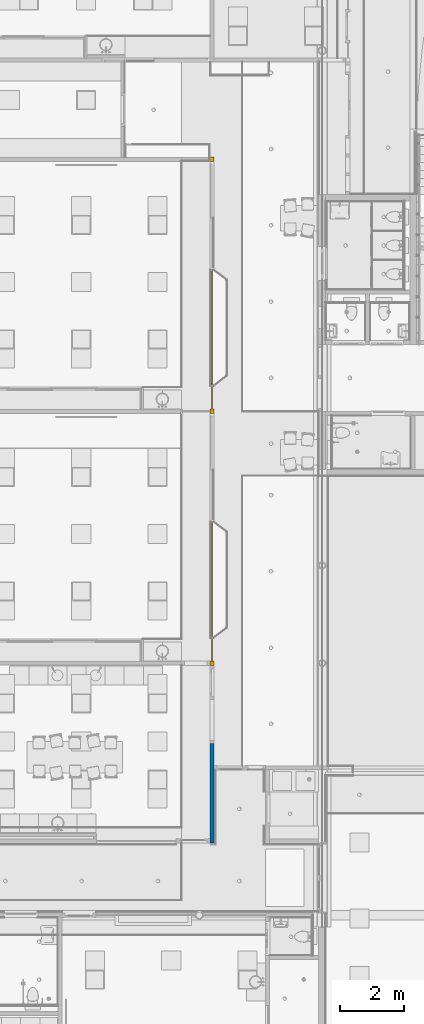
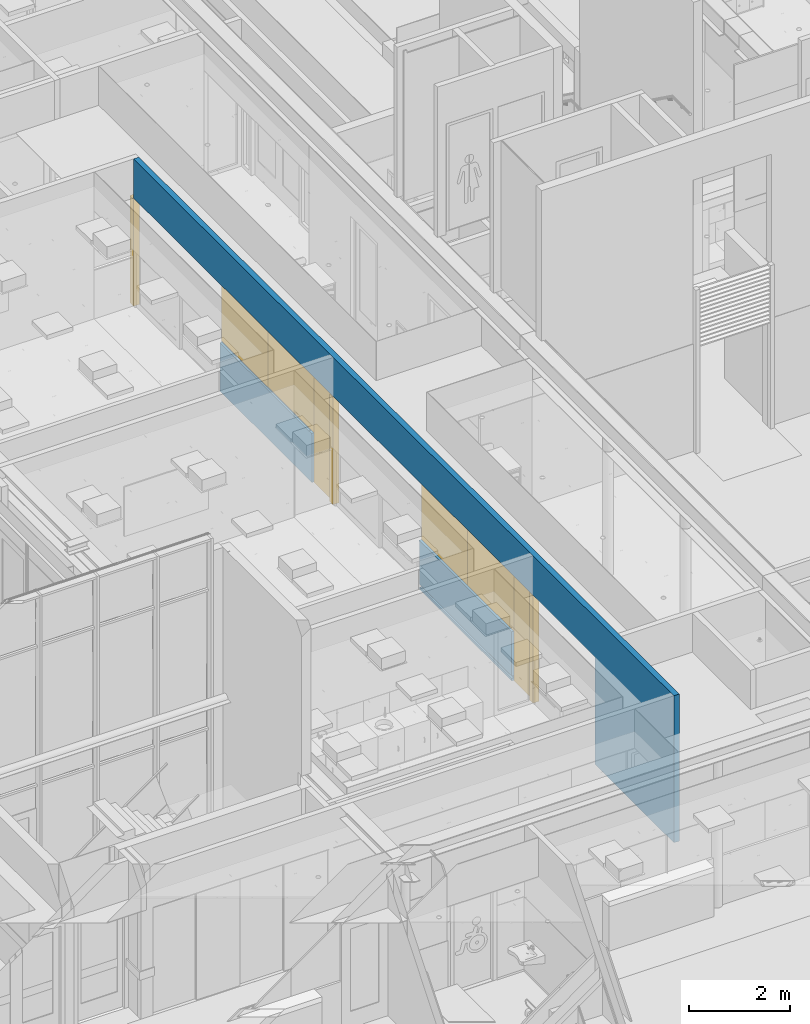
# One storey, part 46 of 347: 9 windows, 1 wall, 12 openings.
"""IFC2X3 building model written with IfcOpenShell, lengths in millimetres."""

from ifc_helpers import new_model, entity, si_unit, converted_unit, derived_unit, money_unit, direction, frame, origin_with_axes, place, context, subcontext, project, spatial, open_shell, faceted_brep, surface_model, source, transform, mapped, material, type_object, type_shapes, element, fill, save


model = new_model("IFC2X3")

# Units and contexts
model_context = context("Model", 3, precision=0.01, world=origin_with_axes(), true_north=direction((0.0, 1.0)))
plan_context = context("Plan", 3, precision=0.01, world=origin_with_axes(), true_north=direction((0.0, 1.0)))
body_context = subcontext(model_context, "Body", "Model", "MODEL_VIEW")
ifc_project = project(units=[si_unit("LENGTHUNIT", "METRE", prefix="MILLI"), si_unit("AREAUNIT", "SQUARE_METRE"), si_unit("VOLUMEUNIT", "CUBIC_METRE"), converted_unit("PLANEANGLEUNIT", "DEGREE", entity("IfcPlaneAngleMeasure", 0.0174532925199), si_unit("PLANEANGLEUNIT", "RADIAN"), dimensions=[0, 0, 0, 0, 0, 0, 0]), money_unit("EUR"), converted_unit("TIMEUNIT", "Year", entity("IfcTimeMeasure", 31556926.0), si_unit("TIMEUNIT", "SECOND"), dimensions=[0, 0, 1, 0, 0, 0, 0]), si_unit("MASSUNIT", "GRAM", prefix="KILO"), si_unit("THERMODYNAMICTEMPERATUREUNIT", "DEGREE_CELSIUS"), si_unit("LUMINOUSINTENSITYUNIT", "LUMEN"), si_unit("ENERGYUNIT", "JOULE", prefix="MEGA"), derived_unit("THERMALCONDUCTANCEUNIT", [(si_unit("POWERUNIT", "WATT"), 1), (si_unit("LENGTHUNIT", "METRE"), -1), (si_unit("THERMODYNAMICTEMPERATUREUNIT", "KELVIN"), -1)]), derived_unit("SPECIFICHEATCAPACITYUNIT", [(si_unit("ENERGYUNIT", "JOULE"), 1), (si_unit("MASSUNIT", "GRAM", prefix="KILO"), -1), (si_unit("THERMODYNAMICTEMPERATUREUNIT", "KELVIN"), -1)]), derived_unit("MASSDENSITYUNIT", [(si_unit("MASSUNIT", "GRAM", prefix="KILO"), 1), (si_unit("VOLUMEUNIT", "CUBIC_METRE"), -1)])], contexts=[model_context, plan_context])

# Site, building, storey
site_placement = place(None, origin_with_axes())
site = spatial("IfcSite", under=ifc_project, at=site_placement, Name="Site", CompositionType="ELEMENT")
building_placement = place(site_placement, origin_with_axes())
building = spatial("IfcBuilding", under=site, at=building_placement, Name="Naam gebouw", CompositionType="ELEMENT")
storey_placement = place(building_placement, origin_with_axes())
storey = spatial("IfcBuildingStorey", under=building, at=storey_placement, Name="begane grond", CompositionType="ELEMENT", Elevation=0.0)

# Wall, openings, windows
ifc_material_1 = material(Name="ALG - LICHTE SCHEIDINGSWAND")
wall_type = type_object("IfcWallType", Name="ALG LSW 125 125", PredefinedType="NOTDEFINED")
wall_placement = place(storey_placement, frame((32075.0, 14400.0, 0.0), z_axis=(0.0, 0.0, 1.0), x_axis=(0.0, 1.0, 0.0)))
wall = element("IfcWall", 1, at=wall_placement, inside=storey, type_object=wall_type, material=ifc_material_1, Name="22_GF 125 ECO DGS/2.75.2A", context=body_context, shape_type="Brep", body=[
    faceted_brep([(10105.5, -88.9482869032, 1178.0), (10077.7299648, -125.0, 1178.0), (10077.7299648, -125.0, 0.0), (10105.5, -88.9482869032, 0.0), (6443.5, -88.9506197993, 1178.0), (6471.27110157, -125.0, 1178.0), (10105.5, -72.5, 1178.0), (6465.77078348, -72.1991566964, 1178.0), (6465.95055533, -72.4815328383, 1178.0), (6465.5, -72.4815328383, 1178.0), (6465.5, -72.1991343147, 1178.0), (6443.5, -72.1973158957, 1178.0), (6471.27110157, -125.0, 0.0), (6455.5, -104.527695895, 0.0), (6455.5, -11.9999999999, 0.0), (10105.5, -11.9999999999, 0.0), (6465.5, -71.7738242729, 0.0), (6465.5, -72.4815328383, 0.0), (6465.95055533, -72.4815328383, 0.0), (10105.5, 0.0, 1175.0), (10105.5, 0.0, 1200.0), (10105.5, -72.5, 1200.0), (10105.5, -11.9999999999, 60.0), (10105.5, -52.5, 60.0), (10105.5, -52.5, 120.0), (10105.5, -11.9999999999, 120.0), (10105.5, -11.9999999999, 1175.0), (6443.5, -88.9506197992, 1175.0), (6455.5, -104.527695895, 1175.0), (6443.5, -72.1973158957, 1200.0), (6465.5, -71.7738242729, 1178.0), (6443.5, 0.0, 1200.0), (6443.5, 0.0, 1175.0), (6455.5, -11.9999999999, 1175.0), (6455.5, -11.9999999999, 120.0), (6455.5, -52.5, 120.0), (6455.5, -52.5, 60.0), (6455.5, -11.9999999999, 60.0)], [[[0, 1, 2, 3]], [[4, 5, 1, 0, 6, 7, 8, 9, 10, 11]], [[2, 1, 5, 12]], [[12, 13, 14, 15, 3, 2], [16, 17, 18]], [[19, 20, 21, 6, 0, 3, 15, 22, 23, 24, 25, 26]], [[27, 28, 13, 12, 5, 4]], [[11, 10, 7, 6, 21, 29]], [[30, 16, 18, 8, 7]], [[9, 8, 18, 17]], [[17, 16, 30, 10, 9]], [[4, 11, 29, 31, 32, 27]], [[33, 34, 35, 36, 37, 14, 13, 28]], [[15, 14, 37, 22]], [[19, 32, 31, 20]], [[20, 31, 29, 21]], [[22, 37, 36, 23]], [[23, 36, 35, 24]], [[24, 35, 34, 25]], [[25, 34, 33, 26]], [[28, 27, 32, 19, 26, 33]], [[7, 10, 30]]]),
    faceted_brep([(18002.7299648, -125.0, 0.0), (18030.5, -88.9482869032, 0.0), (18030.5, -88.9482869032, 1178.0), (18002.7299648, -125.0, 1178.0), (14396.2711016, -125.0, 0.0), (14380.5, -104.527695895, 0.0), (14380.5, -11.9999999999, 0.0), (18030.5, -11.9999999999, 0.0), (14390.9505553, -72.4815328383, 0.0), (14390.5, -71.773824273, 0.0), (14390.5, -72.4815328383, 0.0), (18030.5, -11.9999999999, 1175.0), (18030.5, -52.5, 1175.0), (18030.5, -52.5, 1200.0), (18030.5, -72.5, 1200.0), (18030.5, -72.5, 1178.0), (14368.5, -72.5, 1178.0), (14368.5, -88.9506197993, 1178.0), (14396.2711016, -125.0, 1178.0), (14368.5, -88.9506197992, 1175.0), (14380.5, -104.527695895, 1175.0), (14380.5, -11.9999999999, 1175.0), (14470.5, -11.9999999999, 1175.0), (14390.9505553, -72.4815328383, 1178.0), (14390.5, -71.773824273, 1178.0), (14390.5, -72.4815328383, 1178.0), (14470.5, -52.5, 1175.0), (14470.5, -52.5, 1200.0), (14470.5, 0.0, 1200.0), (14368.5, 0.0, 1200.0), (14368.5, -72.5, 1200.0), (14368.5, 0.0, 1175.0), (14470.5, 0.0, 1175.0)], [[[0, 1, 2, 3]], [[1, 0, 4, 5, 6, 7], [8, 9, 10]], [[7, 11, 12, 13, 14, 15, 2, 1]], [[15, 16, 17, 18, 3, 2]], [[3, 18, 4, 0]], [[5, 4, 18, 17, 19, 20]], [[6, 5, 20, 21]], [[11, 7, 6, 21, 22]], [[8, 23, 24, 9]], [[9, 24, 25, 10]], [[10, 25, 23, 8]], [[26, 12, 11, 22]], [[27, 13, 12, 26]], [[13, 27, 28, 29, 30, 14]], [[16, 15, 14, 30]], [[30, 29, 31, 19, 17, 16]], [[31, 32, 22, 21, 20, 19]], [[25, 24, 23]], [[22, 32, 28, 27, 26]], [[29, 28, 32, 31]]]),
    faceted_brep([(0.0, -125.0, 0.0), (3125.0, -125.0, 0.0), (3125.0, -125.0, 2600.0), (5712.5, -125.0, 2600.0), (5712.5, -125.0, 2612.0), (21437.5, -125.0, 2612.0), (21437.5, -125.0, 3560.0), (0.0, -125.0, 3560.0), (0.0, 0.0, 0.0), (3125.0, 0.0, 0.0), (3125.0, 0.0, 2600.0), (5712.5, 0.0, 2600.0), (5712.5, 0.0, 2612.0), (21437.5, 0.0, 2612.0), (21437.5, 0.0, 3560.0), (0.0, 0.0, 3560.0)], [[[0, 1, 2, 3, 4, 5, 6, 7]], [[8, 9, 1, 0]], [[10, 2, 1, 9]], [[3, 2, 10, 11]], [[3, 11, 12, 4]], [[12, 13, 5, 4]], [[6, 5, 13, 14]], [[7, 6, 14, 15]], [[8, 0, 7, 15]], [[11, 10, 9, 8, 15, 14, 13, 12]]]),
])
opening_1_placement = place(wall_placement, frame((21500.0, 0.0, 0.0), z_axis=(0.0, 0.0, 1.0), x_axis=(1.0, 0.0, 0.0)))
opening_1 = element("IfcOpeningElement", 2, at=opening_1_placement, cuts=wall, Name="32_-", context=body_context, shape_type="Brep", body=[
    faceted_brep([(-69.5, -132.0, 0.0), (-69.5, -132.0, 2600.0), (-69.5, 7.00000000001, 2600.0), (-69.5, 7.00000000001, 0.0), (69.5, -132.0, 0.0), (69.5, -132.0, 2600.0)], [[[0, 1, 2, 3]], [[1, 0, 4, 5]], [[1, 5, 2]], [[5, 4, 3, 2]], [[0, 3, 4]]]),
])
opening_2_placement = place(wall_placement, frame((17115.0, 0.0, 1200.0), z_axis=(0.0, 0.0, 1.0), x_axis=(1.0, 0.0, 0.0)))
opening_2 = element("IfcOpeningElement", 3, at=opening_2_placement, cuts=wall, Name="31_11.01", context=body_context, shape_type="Brep", body=[
    faceted_brep([(915.5, -72.5, 1400.0), (915.5, -72.5, 0.0), (915.5, 125.0, 0.0), (915.5, 125.0, 1400.0), (-915.5, -72.5, 1400.0), (-915.5, -72.5, 0.0), (-915.5, 125.0, 0.0), (-915.5, 125.0, 1400.0)], [[[0, 1, 2, 3]], [[0, 4, 5, 1]], [[1, 5, 6, 2]], [[3, 2, 6, 7]], [[4, 0, 3, 7]], [[5, 4, 7, 6]]]),
    faceted_brep([(915.5, -72.5, 0.0), (915.5, -72.5, 1400.0), (915.5, -250.0, 1400.0), (915.5, -250.0, 0.0), (-915.5, -72.5, 0.0), (-915.5, -72.5, 1400.0), (-915.5, -250.0, 1400.0), (-915.5, -250.0, 0.0)], [[[0, 1, 2, 3]], [[0, 4, 5, 1]], [[1, 5, 6, 2]], [[3, 2, 6, 7]], [[4, 0, 3, 7]], [[5, 4, 7, 6]]]),
])
opening_3_placement = place(wall_placement, frame((14006.5, 0.0, 0.0), z_axis=(0.0, 0.0, 1.0), x_axis=(1.0, 0.0, 0.0)))
opening_3 = element("IfcOpeningElement", 4, at=opening_3_placement, cuts=wall, Name="32_10.01", context=body_context, shape_type="Brep", body=[
    faceted_brep([(362.0, -72.5, 2600.0), (362.0, -72.5, 0.0), (362.0, 125.0, 0.0), (362.0, 125.0, 2600.0), (-362.0, -72.5, 2600.0), (-362.0, -72.5, 0.0), (-362.0, 125.0, 0.0), (-362.0, 125.0, 2600.0)], [[[0, 1, 2, 3]], [[0, 4, 5, 1]], [[1, 5, 6, 2]], [[3, 2, 6, 7]], [[4, 0, 3, 7]], [[5, 4, 7, 6]]]),
    faceted_brep([(362.0, -72.5, 0.0), (362.0, -72.5, 2600.0), (362.0, -250.0, 2600.0), (362.0, -250.0, 0.0), (-362.0, -72.5, 0.0), (-362.0, -72.5, 2600.0), (-362.0, -250.0, 2600.0), (-362.0, -250.0, 0.0)], [[[0, 1, 2, 3]], [[0, 4, 5, 1]], [[1, 5, 6, 2]], [[3, 2, 6, 7]], [[4, 0, 3, 7]], [[5, 4, 7, 6]]]),
])
opening_4_placement = place(wall_placement, frame((13575.0, 0.0, 0.0), z_axis=(0.0, 0.0, 1.0), x_axis=(1.0, 0.0, 0.0)))
opening_4 = element("IfcOpeningElement", 5, at=opening_4_placement, cuts=wall, Name="32_-", context=body_context, shape_type="Brep", body=[
    faceted_brep([(69.5, -132.0, 2600.0), (69.5, -132.0, 0.0), (69.5, 132.0, 0.0), (69.5, 132.0, 2600.0), (-69.5, -132.0, 2600.0), (-69.5, -132.0, 0.0), (-69.5, 132.0, 0.0), (-69.5, 132.0, 2600.0)], [[[0, 1, 2, 3]], [[0, 4, 5, 1]], [[1, 5, 6, 2]], [[3, 2, 6, 7]], [[4, 0, 3, 7]], [[5, 4, 7, 6]]]),
])
opening_5_placement = place(wall_placement, frame((6081.5, 0.0, 0.0), z_axis=(0.0, 0.0, 1.0), x_axis=(1.0, 0.0, 0.0)))
opening_5 = element("IfcOpeningElement", 6, at=opening_5_placement, cuts=wall, Name="32_10.01", context=body_context, shape_type="Brep", body=[
    faceted_brep([(362.0, -72.5, 2600.0), (362.0, -72.5, 0.0), (362.0, 125.0, 0.0), (362.0, 125.0, 2600.0), (-362.0, -72.5, 2600.0), (-362.0, -72.5, 0.0), (-362.0, 125.0, 0.0), (-362.0, 125.0, 2600.0)], [[[0, 1, 2, 3]], [[0, 4, 5, 1]], [[1, 5, 6, 2]], [[3, 2, 6, 7]], [[4, 0, 3, 7]], [[5, 4, 7, 6]]]),
    faceted_brep([(362.0, -72.5, 0.0), (362.0, -72.5, 2600.0), (362.0, -250.0, 2600.0), (362.0, -250.0, 0.0), (-362.0, -72.5, 0.0), (-362.0, -72.5, 2600.0), (-362.0, -250.0, 2600.0), (-362.0, -250.0, 0.0)], [[[0, 1, 2, 3]], [[0, 4, 5, 1]], [[1, 5, 6, 2]], [[3, 2, 6, 7]], [[4, 0, 3, 7]], [[5, 4, 7, 6]]]),
])
opening_6_placement = place(wall_placement, frame((9190.0, 0.0, 1200.0), z_axis=(0.0, 0.0, 1.0), x_axis=(1.0, 0.0, 0.0)))
opening_6 = element("IfcOpeningElement", 7, at=opening_6_placement, cuts=wall, Name="31_11.01", context=body_context, shape_type="Brep", body=[
    faceted_brep([(915.5, -72.5, 1400.0), (915.5, -72.5, 0.0), (915.5, 125.0, 0.0), (915.5, 125.0, 1400.0), (-915.5, -72.5, 1400.0), (-915.5, -72.5, 0.0), (-915.5, 125.0, 0.0), (-915.5, 125.0, 1400.0)], [[[0, 1, 2, 3]], [[0, 4, 5, 1]], [[1, 5, 6, 2]], [[3, 2, 6, 7]], [[4, 0, 3, 7]], [[5, 4, 7, 6]]]),
    faceted_brep([(915.5, -72.5, 0.0), (915.5, -72.5, 1400.0), (915.5, -250.0, 1400.0), (915.5, -250.0, 0.0), (-915.5, -72.5, 0.0), (-915.5, -72.5, 1400.0), (-915.5, -250.0, 1400.0), (-915.5, -250.0, 0.0)], [[[0, 1, 2, 3]], [[0, 4, 5, 1]], [[1, 5, 6, 2]], [[3, 2, 6, 7]], [[4, 0, 3, 7]], [[5, 4, 7, 6]]]),
])
opening_7_placement = place(wall_placement, frame((5650.0, 0.0, 0.0), z_axis=(0.0, 0.0, 1.0), x_axis=(1.0, 0.0, 0.0)))
opening_7 = element("IfcOpeningElement", 8, at=opening_7_placement, cuts=wall, Name="32_-", context=body_context, shape_type="Brep", body=[
    faceted_brep([(69.5, -132.0, 2600.0), (69.5, -132.0, 0.0), (69.5, 132.0, 0.0), (69.5, 132.0, 2600.0), (-69.5, -132.0, 2600.0), (-69.5, -132.0, 0.0), (-69.5, 132.0, 0.0), (-69.5, 132.0, 2600.0)], [[[0, 1, 2, 3]], [[0, 4, 5, 1]], [[1, 5, 6, 2]], [[3, 2, 6, 7]], [[4, 0, 3, 7]], [[5, 4, 7, 6]]]),
])
opening_8_placement = place(wall_placement, frame((15284.0, 0.0, 1200.0), z_axis=(0.0, 0.0, 1.0), x_axis=(1.0, 0.0, 0.0)))
opening_8 = element("IfcOpeningElement", 9, at=opening_8_placement, cuts=wall, Name="31_11.01", context=body_context, shape_type="Brep", body=[
    faceted_brep([(915.5, -72.5, 1400.0), (915.5, -72.5, 0.0), (915.5, 125.0, 0.0), (915.5, 125.0, 1400.0), (-915.5, -72.5, 1400.0), (-915.5, -72.5, 0.0), (-915.5, 125.0, 0.0), (-915.5, 125.0, 1400.0)], [[[0, 1, 2, 3]], [[0, 4, 5, 1]], [[1, 5, 6, 2]], [[3, 2, 6, 7]], [[4, 0, 3, 7]], [[5, 4, 7, 6]]]),
    faceted_brep([(915.5, -72.5, 0.0), (915.5, -72.5, 1400.0), (915.5, -250.0, 1400.0), (915.5, -250.0, 0.0), (-915.5, -72.5, 0.0), (-915.5, -72.5, 1400.0), (-915.5, -250.0, 1400.0), (-915.5, -250.0, 0.0)], [[[0, 1, 2, 3]], [[0, 4, 5, 1]], [[1, 5, 6, 2]], [[3, 2, 6, 7]], [[4, 0, 3, 7]], [[5, 4, 7, 6]]]),
])
opening_9_placement = place(wall_placement, frame((7359.0, 0.0, 1200.0), z_axis=(0.0, 0.0, 1.0), x_axis=(1.0, 0.0, 0.0)))
opening_9 = element("IfcOpeningElement", 10, at=opening_9_placement, cuts=wall, Name="31_11.01", context=body_context, shape_type="Brep", body=[
    faceted_brep([(915.5, -72.5, 1400.0), (915.5, -72.5, 0.0), (915.5, 125.0, 0.0), (915.5, 125.0, 1400.0), (-915.5, -72.5, 1400.0), (-915.5, -72.5, 0.0), (-915.5, 125.0, 0.0), (-915.5, 125.0, 1400.0)], [[[0, 1, 2, 3]], [[0, 4, 5, 1]], [[1, 5, 6, 2]], [[3, 2, 6, 7]], [[4, 0, 3, 7]], [[5, 4, 7, 6]]]),
    faceted_brep([(915.5, -72.5, 0.0), (915.5, -72.5, 1400.0), (915.5, -250.0, 1400.0), (915.5, -250.0, 0.0), (-915.5, -72.5, 0.0), (-915.5, -72.5, 1400.0), (-915.5, -250.0, 1400.0), (-915.5, -250.0, 0.0)], [[[0, 1, 2, 3]], [[0, 4, 5, 1]], [[1, 5, 6, 2]], [[3, 2, 6, 7]], [[4, 0, 3, 7]], [[5, 4, 7, 6]]]),
])
opening_10_placement = place(wall_placement, frame((19730.5, 0.0, 0.0), z_axis=(0.0, 0.0, 1.0), x_axis=(1.0, 0.0, 0.0)))
element("IfcOpeningElement", 11, at=opening_10_placement, cuts=wall, Name="32_06.01", context=body_context, shape_type="Brep", body=[
    faceted_brep([(1700.0, -132.0, 2599.99996583), (1700.0, -132.0, 0.0), (1700.0, 132.0, 0.0), (1700.0, 132.0, 2599.99996583), (-1700.0, -132.0, 2599.99996583), (-1700.0, -132.0, 0.0), (-1700.0, 132.0, 0.0), (-1700.0, 132.0, 2599.99996583)], [[[0, 1, 2, 3]], [[0, 4, 5, 1]], [[1, 5, 6, 2]], [[3, 2, 6, 7]], [[4, 0, 3, 7]], [[5, 4, 7, 6]]]),
])
opening_11_placement = place(wall_placement, frame((11805.5, 0.0, 0.0), z_axis=(0.0, 0.0, 1.0), x_axis=(1.0, 0.0, 0.0)))
element("IfcOpeningElement", 12, at=opening_11_placement, cuts=wall, Name="32_06.01", context=body_context, shape_type="Brep", body=[
    faceted_brep([(1700.0, -132.0, 2599.99996583), (1700.0, -132.0, 0.0), (1700.0, 132.0, 0.0), (1700.0, 132.0, 2599.99996583), (-1700.0, -132.0, 2599.99996583), (-1700.0, -132.0, 0.0), (-1700.0, 132.0, 0.0), (-1700.0, 132.0, 2599.99996583)], [[[0, 1, 2, 3]], [[0, 4, 5, 1]], [[1, 5, 6, 2]], [[3, 2, 6, 7]], [[4, 0, 3, 7]], [[5, 4, 7, 6]]]),
])
opening_12_placement = place(wall_placement, frame((4352.75, 0.0, 0.0), z_axis=(0.0, 0.0, 1.0), x_axis=(1.0, 0.0, 0.0)))
element("IfcOpeningElement", 13, at=opening_12_placement, cuts=wall, Name="32_04.06", context=body_context, shape_type="Brep", body=[
    faceted_brep([(1227.75, -125.0, 2600.0), (1227.75, -125.0, 0.0), (1227.75, 257.0, 0.0), (1227.75, 257.0, 2600.0), (-1227.75, -125.0, 2600.0), (-1227.75, -125.0, 0.0), (-1227.75, 257.0, 0.0), (-1227.75, 257.0, 2600.0)], [[[0, 1, 2, 3]], [[0, 4, 5, 1]], [[1, 5, 6, 2]], [[3, 2, 6, 7]], [[4, 0, 3, 7]], [[5, 4, 7, 6]]]),
])
window_style_1 = type_object("IfcWindowStyle", Name="R1 25", ConstructionType="NOTDEFINED", OperationType="SINGLE_PANEL", ParameterTakesPrecedence=False, Sizeable=False)
shared_shape_1 = source(origin_with_axes(), body_context, "Body", "SurfaceModel", [
    faceted_brep([(342.0, -20.0, 2580.0), (362.0, -20.0, 2580.0), (362.0, 0.0, 2580.0), (342.0, 0.0, 2580.0), (342.0, -20.0, 20.0), (362.0, -20.0, 20.0), (362.0, 0.0, 20.0), (342.0, 0.0, 20.0)], [[[0, 1, 2, 3]], [[0, 4, 5, 1]], [[1, 5, 6, 2]], [[3, 2, 6, 7]], [[4, 0, 3, 7]], [[5, 4, 7, 6]]]),
    faceted_brep([(-342.0, -20.0, 20.0), (-362.0, -20.0, 20.0), (-362.0, 0.0, 20.0), (-342.0, 0.0, 20.0), (-342.0, -20.0, 2580.0), (-362.0, -20.0, 2580.0), (-362.0, 0.0, 2580.0), (-342.0, 0.0, 2580.0)], [[[0, 1, 2, 3]], [[0, 4, 5, 1]], [[1, 5, 6, 2]], [[3, 2, 6, 7]], [[4, 0, 3, 7]], [[5, 4, 7, 6]]]),
    faceted_brep([(342.0, -20.0, 20.0), (362.0, -20.0, 20.0), (362.0, 0.0, 20.0), (342.0, 0.0, 20.0), (-342.0, -20.0, 20.0), (-362.0, -20.0, 20.0), (-362.0, -20.0, 0.0), (362.0, -20.0, 0.0), (362.0, 0.0, 0.0), (-362.0, 0.0, 0.0), (-362.0, 0.0, 20.0), (-342.0, 0.0, 20.0)], [[[0, 1, 2, 3]], [[0, 4, 5, 6, 7, 1]], [[1, 7, 8, 2]], [[3, 2, 8, 9, 10, 11]], [[4, 0, 3, 11]], [[5, 4, 11, 10]], [[6, 5, 10, 9]], [[7, 6, 9, 8]]]),
    faceted_brep([(-342.0, -20.0, 2580.0), (-362.0, -20.0, 2580.0), (-362.0, 0.0, 2580.0), (-342.0, 0.0, 2580.0), (342.0, -20.0, 2580.0), (362.0, -20.0, 2580.0), (362.0, -20.0, 2600.0), (-362.0, -20.0, 2600.0), (-362.0, 0.0, 2600.0), (362.0, 0.0, 2600.0), (362.0, 0.0, 2580.0), (342.0, 0.0, 2580.0)], [[[0, 1, 2, 3]], [[0, 4, 5, 6, 7, 1]], [[1, 7, 8, 2]], [[3, 2, 8, 9, 10, 11]], [[4, 0, 3, 11]], [[5, 4, 11, 10]], [[6, 5, 10, 9]], [[7, 6, 9, 8]]]),
    surface_model("IfcShellBasedSurfaceModel", [(342.0, -20.0, 20.0), (342.0, -20.0, 2580.0), (-342.0, -20.0, 2580.0), (-342.0, -20.0, 20.0)], [open_shell([[[0, 1, 2, 3]]])]),
    surface_model("IfcShellBasedSurfaceModel", [(342.0, 0.0, 20.0), (-342.0, 0.0, 20.0), (-342.0, 0.0, 2580.0), (342.0, 0.0, 2580.0)], [open_shell([[[0, 1, 2, 3]]])]),
])
window_1_placement = place(opening_3_placement, frame((362.0, 0.0, 0.0), z_axis=(0.0, 0.0, 1.0), x_axis=(-1.0, 0.0, 0.0)))
window_1 = element("IfcWindow", 14, at=window_1_placement, inside=storey, type_object=window_style_1, Name="32_10.01", ObjectType="WINDOW", OverallHeight=2600.0, OverallWidth=724.0, context=body_context, shape_type="MappedRepresentation", body=[
    mapped(shared_shape_1, transform((362.0, 72.5, 0.0))),
])
fill(opening_3, window_1)
window_2_placement = place(opening_5_placement, frame((362.0, 0.0, 0.0), z_axis=(0.0, 0.0, 1.0), x_axis=(-1.0, 0.0, 0.0)))
window_2 = element("IfcWindow", 15, at=window_2_placement, inside=storey, type_object=window_style_1, Name="32_10.01", ObjectType="WINDOW", OverallHeight=2600.0, OverallWidth=724.0, context=body_context, shape_type="MappedRepresentation", body=[
    mapped(shared_shape_1, transform((362.0, 72.5, 0.0))),
])
fill(opening_5, window_2)
ifc_material_2 = material(Name="32 Hout binnenkozijn oregon pine")
window_style_2 = type_object("IfcWindowStyle", Name="32 stijl 139", ConstructionType="NOTDEFINED", OperationType="NOTDEFINED", ParameterTakesPrecedence=False, Sizeable=False)
shared_shape_2 = source(origin_with_axes(), body_context, "Body", "Brep", [
    faceted_brep([(-69.5, 139.0, 2600.0), (68.5, 139.0, 2600.0), (68.5, 139.0, 0.0), (-69.5, 139.0, 0.0), (-69.5, 1.0, 2600.0), (-68.5, 0.0, 2600.0), (68.5, 0.0, 2600.0), (69.5, 1.0, 2600.0), (69.5, 138.0, 2600.0), (69.5, 138.0, 0.0), (69.5, 1.0, 0.0), (68.5, 0.0, 0.0), (-68.5, 0.0, 0.0), (-69.5, 1.0, 0.0)], [[[0, 1, 2, 3]], [[0, 4, 5, 6, 7, 8, 1]], [[1, 8, 9, 2]], [[3, 2, 9, 10, 11, 12, 13]], [[4, 0, 3, 13]], [[5, 4, 13, 12]], [[6, 5, 12, 11]], [[7, 6, 11, 10]], [[8, 7, 10, 9]]]),
])
type_shapes(window_style_2, [shared_shape_2])
window_3_placement = place(opening_1_placement, frame((-69.5, 0.0, 0.0), z_axis=(0.0, 0.0, 1.0), x_axis=(1.0, 0.0, 0.0)))
window_3 = element("IfcWindow", 16, at=window_3_placement, inside=storey, type_object=window_style_2, material=ifc_material_2, Name="32_-", ObjectType="WINDOW", OverallHeight=2600.0, OverallWidth=139.0, context=body_context, shape_type="MappedRepresentation", body=[
    mapped(shared_shape_2, transform((69.5, -132.0, 0.0))),
])
fill(opening_1, window_3)
window_4_placement = place(opening_4_placement, frame((-69.5, 0.0, 0.0), z_axis=(0.0, 0.0, 1.0), x_axis=(1.0, 0.0, 0.0)))
window_4 = element("IfcWindow", 17, at=window_4_placement, inside=storey, type_object=window_style_2, material=ifc_material_2, Name="32_-", ObjectType="WINDOW", OverallHeight=2600.0, OverallWidth=139.0, context=body_context, shape_type="MappedRepresentation", body=[
    mapped(shared_shape_2, transform((69.5, -132.0, 0.0))),
])
fill(opening_4, window_4)
window_5_placement = place(opening_7_placement, frame((-69.5, 0.0, 0.0), z_axis=(0.0, 0.0, 1.0), x_axis=(1.0, 0.0, 0.0)))
window_5 = element("IfcWindow", 18, at=window_5_placement, inside=storey, type_object=window_style_2, material=ifc_material_2, Name="32_-", ObjectType="WINDOW", OverallHeight=2600.0, OverallWidth=139.0, context=body_context, shape_type="MappedRepresentation", body=[
    mapped(shared_shape_2, transform((69.5, -132.0, 0.0))),
])
fill(opening_7, window_5)
shared_shape_3 = source(origin_with_axes(), body_context, "Body", "SurfaceModel", [
    faceted_brep([(895.5, -20.0, 1380.0), (915.5, -20.0, 1380.0), (915.5, 0.0, 1380.0), (895.5, 0.0, 1380.0), (895.5, -20.0, 20.0), (915.5, -20.0, 20.0), (915.5, 0.0, 20.0), (895.5, 0.0, 20.0)], [[[0, 1, 2, 3]], [[0, 4, 5, 1]], [[1, 5, 6, 2]], [[3, 2, 6, 7]], [[4, 0, 3, 7]], [[5, 4, 7, 6]]]),
    faceted_brep([(-895.5, -20.0, 20.0), (-915.5, -20.0, 20.0), (-915.5, 0.0, 20.0), (-895.5, 0.0, 20.0), (-895.5, -20.0, 1380.0), (-915.5, -20.0, 1380.0), (-915.5, 0.0, 1380.0), (-895.5, 0.0, 1380.0)], [[[0, 1, 2, 3]], [[0, 4, 5, 1]], [[1, 5, 6, 2]], [[3, 2, 6, 7]], [[4, 0, 3, 7]], [[5, 4, 7, 6]]]),
    faceted_brep([(895.5, -20.0, 20.0), (915.5, -20.0, 20.0), (915.5, 0.0, 20.0), (895.5, 0.0, 20.0), (-895.5, -20.0, 20.0), (-915.5, -20.0, 20.0), (-915.5, -20.0, 0.0), (915.5, -20.0, 0.0), (915.5, 0.0, 0.0), (-915.5, 0.0, 0.0), (-915.5, 0.0, 20.0), (-895.5, 0.0, 20.0)], [[[0, 1, 2, 3]], [[0, 4, 5, 6, 7, 1]], [[1, 7, 8, 2]], [[3, 2, 8, 9, 10, 11]], [[4, 0, 3, 11]], [[5, 4, 11, 10]], [[6, 5, 10, 9]], [[7, 6, 9, 8]]]),
    faceted_brep([(-895.5, -20.0, 1380.0), (-915.5, -20.0, 1380.0), (-915.5, 0.0, 1380.0), (-895.5, 0.0, 1380.0), (895.5, -20.0, 1380.0), (915.5, -20.0, 1380.0), (915.5, -20.0, 1400.0), (-915.5, -20.0, 1400.0), (-915.5, 0.0, 1400.0), (915.5, 0.0, 1400.0), (915.5, 0.0, 1380.0), (895.5, 0.0, 1380.0)], [[[0, 1, 2, 3]], [[0, 4, 5, 6, 7, 1]], [[1, 7, 8, 2]], [[3, 2, 8, 9, 10, 11]], [[4, 0, 3, 11]], [[5, 4, 11, 10]], [[6, 5, 10, 9]], [[7, 6, 9, 8]]]),
    surface_model("IfcShellBasedSurfaceModel", [(895.5, -20.0, 20.0), (895.5, -20.0, 1380.0), (-895.5, -20.0, 1380.0), (-895.5, -20.0, 20.0)], [open_shell([[[0, 1, 2, 3]]])]),
    surface_model("IfcShellBasedSurfaceModel", [(895.5, 0.0, 20.0), (-895.5, 0.0, 20.0), (-895.5, 0.0, 1380.0), (895.5, 0.0, 1380.0)], [open_shell([[[0, 1, 2, 3]]])]),
])
window_6_placement = place(opening_2_placement, frame((915.5, 0.0, 0.0), z_axis=(0.0, 0.0, 1.0), x_axis=(-1.0, 0.0, 0.0)))
window_6 = element("IfcWindow", 19, at=window_6_placement, inside=storey, type_object=window_style_1, Name="31_11.01", ObjectType="WINDOW", OverallHeight=1400.0, OverallWidth=1831.0, context=body_context, shape_type="MappedRepresentation", body=[
    mapped(shared_shape_3, transform((915.5, 72.5, 0.0))),
])
fill(opening_2, window_6)
window_7_placement = place(opening_6_placement, frame((915.5, 0.0, 0.0), z_axis=(0.0, 0.0, 1.0), x_axis=(-1.0, 0.0, 0.0)))
window_7 = element("IfcWindow", 20, at=window_7_placement, inside=storey, type_object=window_style_1, Name="31_11.01", ObjectType="WINDOW", OverallHeight=1400.0, OverallWidth=1831.0, context=body_context, shape_type="MappedRepresentation", body=[
    mapped(shared_shape_3, transform((915.5, 72.5, 0.0))),
])
fill(opening_6, window_7)
shared_shape_4 = source(origin_with_axes(), body_context, "Body", "SurfaceModel", [
    faceted_brep([(895.5, -20.0, 1380.0), (915.5, -20.0, 1380.0), (915.5, 0.0, 1380.0), (895.5, 0.0, 1380.0), (895.5, -20.0, 20.0), (915.5, -20.0, 20.0), (915.5, 0.0, 20.0), (895.5, 0.0, 20.0)], [[[0, 1, 2, 3]], [[0, 4, 5, 1]], [[1, 5, 6, 2]], [[3, 2, 6, 7]], [[4, 0, 3, 7]], [[5, 4, 7, 6]]]),
    faceted_brep([(-895.5, -20.0, 20.0), (-915.5, -20.0, 20.0), (-915.5, 0.0, 20.0), (-895.5, 0.0, 20.0), (-895.5, -20.0, 1380.0), (-915.5, -20.0, 1380.0), (-915.5, 0.0, 1380.0), (-895.5, 0.0, 1380.0)], [[[0, 1, 2, 3]], [[0, 4, 5, 1]], [[1, 5, 6, 2]], [[3, 2, 6, 7]], [[4, 0, 3, 7]], [[5, 4, 7, 6]]]),
    faceted_brep([(895.5, -20.0, 20.0), (915.5, -20.0, 20.0), (915.5, 0.0, 20.0), (895.5, 0.0, 20.0), (-895.5, -20.0, 20.0), (-915.5, -20.0, 20.0), (-915.5, -20.0, 0.0), (915.5, -20.0, 0.0), (915.5, 0.0, 0.0), (-915.5, 0.0, 0.0), (-915.5, 0.0, 20.0), (-895.5, 0.0, 20.0)], [[[0, 1, 2, 3]], [[0, 4, 5, 6, 7, 1]], [[1, 7, 8, 2]], [[3, 2, 8, 9, 10, 11]], [[4, 0, 3, 11]], [[5, 4, 11, 10]], [[6, 5, 10, 9]], [[7, 6, 9, 8]]]),
    faceted_brep([(-895.5, -20.0, 1380.0), (-915.5, -20.0, 1380.0), (-915.5, 0.0, 1380.0), (-895.5, 0.0, 1380.0), (895.5, -20.0, 1380.0), (915.5, -20.0, 1380.0), (915.5, -20.0, 1400.0), (-915.5, -20.0, 1400.0), (-915.5, 0.0, 1400.0), (915.5, 0.0, 1400.0), (915.5, 0.0, 1380.0), (895.5, 0.0, 1380.0)], [[[0, 1, 2, 3]], [[0, 4, 5, 6, 7, 1]], [[1, 7, 8, 2]], [[3, 2, 8, 9, 10, 11]], [[4, 0, 3, 11]], [[5, 4, 11, 10]], [[6, 5, 10, 9]], [[7, 6, 9, 8]]]),
    surface_model("IfcShellBasedSurfaceModel", [(895.5, -20.0, 20.0), (895.5, -20.0, 1380.0), (-895.5, -20.0, 1380.0), (-895.5, -20.0, 20.0)], [open_shell([[[0, 1, 2, 3]]])]),
    surface_model("IfcShellBasedSurfaceModel", [(895.5, 0.0, 20.0), (-895.5, 0.0, 20.0), (-895.5, 0.0, 1380.0), (895.5, 0.0, 1380.0)], [open_shell([[[0, 1, 2, 3]]])]),
])
type_shapes(window_style_1, [shared_shape_1, shared_shape_3, shared_shape_4])
window_8_placement = place(opening_8_placement, frame((915.5, 0.0, 0.0), z_axis=(0.0, 0.0, 1.0), x_axis=(-1.0, 0.0, 0.0)))
window_8 = element("IfcWindow", 21, at=window_8_placement, inside=storey, type_object=window_style_1, Name="31_11.01", ObjectType="WINDOW", OverallHeight=1400.0, OverallWidth=1831.0, context=body_context, shape_type="MappedRepresentation", body=[
    mapped(shared_shape_4, transform((915.5, 72.5, 0.0))),
])
fill(opening_8, window_8)
window_9_placement = place(opening_9_placement, frame((915.5, 0.0, 0.0), z_axis=(0.0, 0.0, 1.0), x_axis=(-1.0, 0.0, 0.0)))
window_9 = element("IfcWindow", 22, at=window_9_placement, inside=storey, type_object=window_style_1, Name="31_11.01", ObjectType="WINDOW", OverallHeight=1400.0, OverallWidth=1831.0, context=body_context, shape_type="MappedRepresentation", body=[
    mapped(shared_shape_4, transform((915.5, 72.5, 0.0))),
])
fill(opening_9, window_9)

save(model, "model.ifc")
